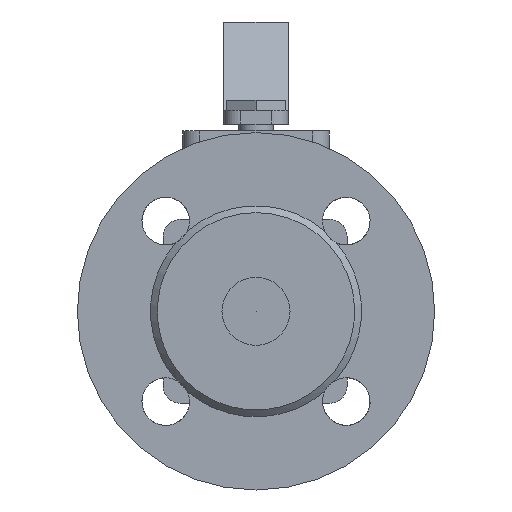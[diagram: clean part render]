
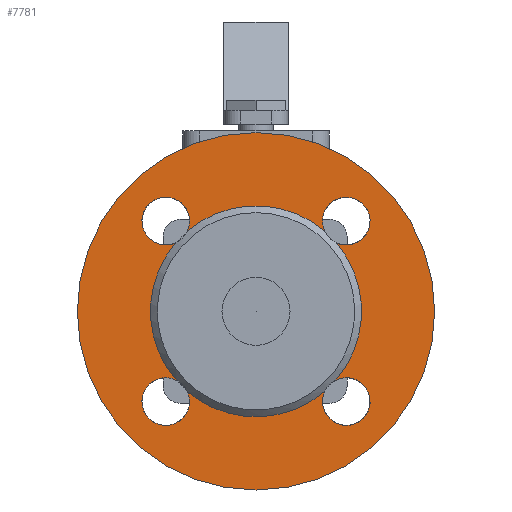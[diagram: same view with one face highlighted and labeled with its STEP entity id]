
A CAD part, left-side view. The second image highlights one B-rep face of the part: STEP entity #7781.
In plain terms, the highlighted planar face has unit normal (-1, 0, 0).
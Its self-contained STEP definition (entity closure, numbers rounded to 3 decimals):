
#7781=ADVANCED_FACE('',(#15173,#15175),#15177,.F.);
#15173=FACE_BOUND('',#15174,.T.);
#15174=EDGE_LOOP('',(#21367,#21368));
#15175=FACE_BOUND('',#15176,.T.);
#15176=EDGE_LOOP('',(#21369,#21370,#21371,#21372,#21373,#21374,#21375,#21376,#21377,
#21378,#21379,#21380,#21381));
#15177=PLANE('',#15178);
#15178=AXIS2_PLACEMENT_3D('',#15179,#15180,#15181);
#15179=CARTESIAN_POINT('',(1519.113,201.347,14.75));
#15180=DIRECTION('',(1.,0.,0.));
#15181=DIRECTION('',(0.,1.,0.));
#21367=ORIENTED_EDGE('',*,*,#24665,.F.);
#21368=ORIENTED_EDGE('',*,*,#24664,.F.);
#21369=ORIENTED_EDGE('',*,*,#24635,.F.);
#21370=ORIENTED_EDGE('',*,*,#24634,.F.);
#21371=ORIENTED_EDGE('',*,*,#24654,.T.);
#21372=ORIENTED_EDGE('',*,*,#24638,.F.);
#21373=ORIENTED_EDGE('',*,*,#24640,.F.);
#21374=ORIENTED_EDGE('',*,*,#24653,.T.);
#21375=ORIENTED_EDGE('',*,*,#24652,.T.);
#21376=ORIENTED_EDGE('',*,*,#24643,.F.);
#21377=ORIENTED_EDGE('',*,*,#24645,.F.);
#21378=ORIENTED_EDGE('',*,*,#24651,.T.);
#21379=ORIENTED_EDGE('',*,*,#24648,.F.);
#21380=ORIENTED_EDGE('',*,*,#24650,.F.);
#21381=ORIENTED_EDGE('',*,*,#24655,.T.);
#24634=EDGE_CURVE('',#29139,#29141,#29142,.T.);
#24635=EDGE_CURVE('',#29141,#29138,#29143,.T.);
#24638=EDGE_CURVE('',#29148,#29149,#29150,.T.);
#24640=EDGE_CURVE('',#29151,#29148,#29153,.T.);
#24643=EDGE_CURVE('',#29158,#29159,#29160,.T.);
#24645=EDGE_CURVE('',#29161,#29158,#29163,.T.);
#24648=EDGE_CURVE('',#29168,#29169,#29170,.T.);
#24650=EDGE_CURVE('',#29171,#29168,#29173,.T.);
#24651=EDGE_CURVE('',#29161,#29169,#29174,.T.);
#24652=EDGE_CURVE('',#29175,#29159,#29176,.T.);
#24653=EDGE_CURVE('',#29151,#29175,#29177,.T.);
#24654=EDGE_CURVE('',#29139,#29149,#29178,.T.);
#24655=EDGE_CURVE('',#29171,#29138,#29179,.T.);
#24664=EDGE_CURVE('',#29196,#29197,#29198,.T.);
#24665=EDGE_CURVE('',#29197,#29196,#29199,.T.);
#29138=VERTEX_POINT('',#39868);
#29139=VERTEX_POINT('',#39869);
#29141=VERTEX_POINT('',#39930);
#29142=CIRCLE('',#39931,7.);
#29143=CIRCLE('',#39935,7.);
#29148=VERTEX_POINT('',#39949);
#29149=VERTEX_POINT('',#39950);
#29150=CIRCLE('',#39951,7.);
#29151=VERTEX_POINT('',#39955);
#29153=CIRCLE('',#40016,7.);
#29158=VERTEX_POINT('',#40030);
#29159=VERTEX_POINT('',#40031);
#29160=CIRCLE('',#40032,7.);
#29161=VERTEX_POINT('',#40036);
#29163=CIRCLE('',#40097,7.);
#29168=VERTEX_POINT('',#40111);
#29169=VERTEX_POINT('',#40112);
#29170=CIRCLE('',#40113,7.);
#29171=VERTEX_POINT('',#40117);
#29173=CIRCLE('',#40178,7.);
#29174=CIRCLE('',#40182,31.);
#29175=VERTEX_POINT('',#40186);
#29176=CIRCLE('',#40187,31.);
#29177=CIRCLE('',#40191,31.);
#29178=CIRCLE('',#40195,31.);
#29179=CIRCLE('',#40199,31.);
#29196=VERTEX_POINT('',#40243);
#29197=VERTEX_POINT('',#40244);
#29198=CIRCLE('',#40245,52.5);
#29199=CIRCLE('',#40249,52.5);
#39868=CARTESIAN_POINT('',(1519.113,181.159,7.276));
#39869=CARTESIAN_POINT('',(1519.113,177.821,3.938));
#39930=CARTESIAN_POINT('',(1519.113,168.917,14.013));
#39931=AXIS2_PLACEMENT_3D('',#39932,#39933,#39934);
#39932=CARTESIAN_POINT('',(1519.113,174.83,10.267));
#39933=DIRECTION('',(-1.,0.,0.));
#39934=DIRECTION('',(0.,0.427,-0.904));
#39935=AXIS2_PLACEMENT_3D('',#39936,#39937,#39938);
#39936=CARTESIAN_POINT('',(1519.113,174.83,10.267));
#39937=DIRECTION('',(-1.,0.,0.));
#39938=DIRECTION('',(0.,-0.845,0.535));
#39949=CARTESIAN_POINT('',(1519.113,181.661,-41.234));
#39950=CARTESIAN_POINT('',(1519.113,177.821,-36.438));
#39951=AXIS2_PLACEMENT_3D('',#39952,#39953,#39954);
#39952=CARTESIAN_POINT('',(1519.113,174.83,-42.767));
#39953=DIRECTION('',(-1.,0.,0.));
#39954=DIRECTION('',(0.,0.976,0.219));
#39955=CARTESIAN_POINT('',(1519.113,181.159,-39.776));
#40016=AXIS2_PLACEMENT_3D('',#40017,#40018,#40019);
#40017=CARTESIAN_POINT('',(1519.113,174.83,-42.767));
#40018=DIRECTION('',(-1.,0.,0.));
#40019=DIRECTION('',(0.,0.904,0.427));
#40030=CARTESIAN_POINT('',(1519.113,231.609,-36.853));
#40031=CARTESIAN_POINT('',(1519.113,221.534,-39.776));
#40032=AXIS2_PLACEMENT_3D('',#40033,#40034,#40035);
#40033=CARTESIAN_POINT('',(1519.113,227.863,-42.767));
#40034=DIRECTION('',(-1.,0.,0.));
#40035=DIRECTION('',(0.,0.535,0.845));
#40036=CARTESIAN_POINT('',(1519.113,224.873,-36.438));
#40097=AXIS2_PLACEMENT_3D('',#40098,#40099,#40100);
#40098=CARTESIAN_POINT('',(1519.113,227.863,-42.767));
#40099=DIRECTION('',(-1.,0.,0.));
#40100=DIRECTION('',(0.,-0.427,0.904));
#40111=CARTESIAN_POINT('',(1519.113,226.331,17.097));
#40112=CARTESIAN_POINT('',(1519.113,224.873,3.938));
#40113=AXIS2_PLACEMENT_3D('',#40114,#40115,#40116);
#40114=CARTESIAN_POINT('',(1519.113,227.863,10.267));
#40115=DIRECTION('',(-1.,0.,0.));
#40116=DIRECTION('',(0.,-0.219,0.976));
#40117=CARTESIAN_POINT('',(1519.113,221.534,7.276));
#40178=AXIS2_PLACEMENT_3D('',#40179,#40180,#40181);
#40179=CARTESIAN_POINT('',(1519.113,227.863,10.267));
#40180=DIRECTION('',(-1.,0.,0.));
#40181=DIRECTION('',(0.,-0.904,-0.427));
#40182=AXIS2_PLACEMENT_3D('',#40183,#40184,#40185);
#40183=CARTESIAN_POINT('',(1519.113,201.347,-16.25));
#40184=DIRECTION('',(1.,0.,0.));
#40185=DIRECTION('',(0.,0.759,-0.651));
#40186=CARTESIAN_POINT('',(1519.113,214.293,-44.417));
#40187=AXIS2_PLACEMENT_3D('',#40188,#40189,#40190);
#40188=CARTESIAN_POINT('',(1519.113,201.347,-16.25));
#40189=DIRECTION('',(1.,0.,0.));
#40190=DIRECTION('',(0.,0.418,-0.909));
#40191=AXIS2_PLACEMENT_3D('',#40192,#40193,#40194);
#40192=CARTESIAN_POINT('',(1519.113,201.347,-16.25));
#40193=DIRECTION('',(1.,0.,0.));
#40194=DIRECTION('',(0.,-0.651,-0.759));
#40195=AXIS2_PLACEMENT_3D('',#40196,#40197,#40198);
#40196=CARTESIAN_POINT('',(1519.113,201.347,-16.25));
#40197=DIRECTION('',(1.,0.,0.));
#40198=DIRECTION('',(0.,-0.759,0.651));
#40199=AXIS2_PLACEMENT_3D('',#40200,#40201,#40202);
#40200=CARTESIAN_POINT('',(1519.113,201.347,-16.25));
#40201=DIRECTION('',(1.,0.,0.));
#40202=DIRECTION('',(0.,0.651,0.759));
#40243=CARTESIAN_POINT('',(1519.113,201.347,36.25));
#40244=CARTESIAN_POINT('',(1519.113,201.347,-68.75));
#40245=AXIS2_PLACEMENT_3D('',#40246,#40247,#40248);
#40246=CARTESIAN_POINT('',(1519.113,201.347,-16.25));
#40247=DIRECTION('',(1.,0.,0.));
#40248=DIRECTION('',(0.,0.,1.));
#40249=AXIS2_PLACEMENT_3D('',#40250,#40251,#40252);
#40250=CARTESIAN_POINT('',(1519.113,201.347,-16.25));
#40251=DIRECTION('',(1.,0.,0.));
#40252=DIRECTION('',(0.,0.,-1.));
